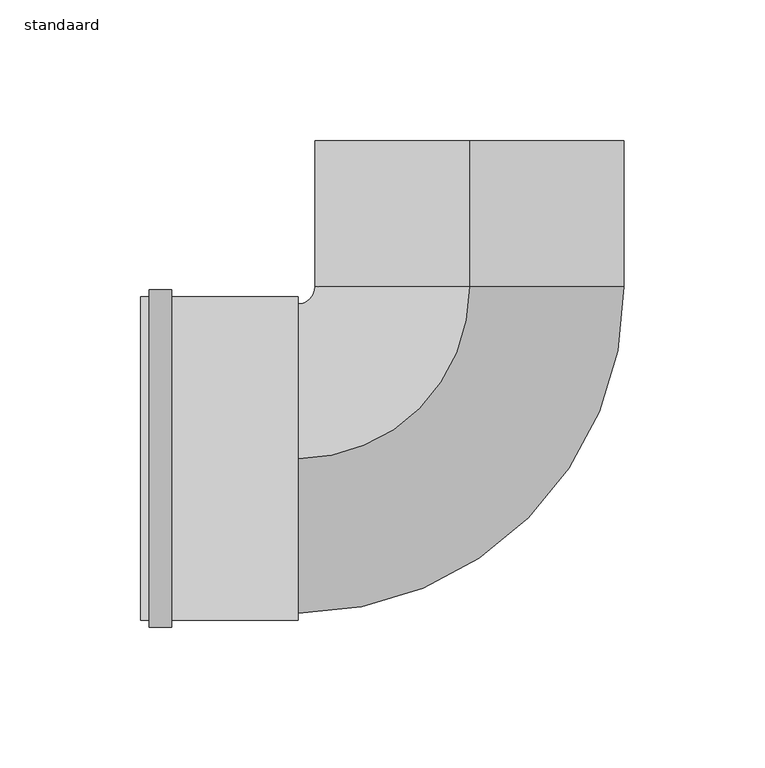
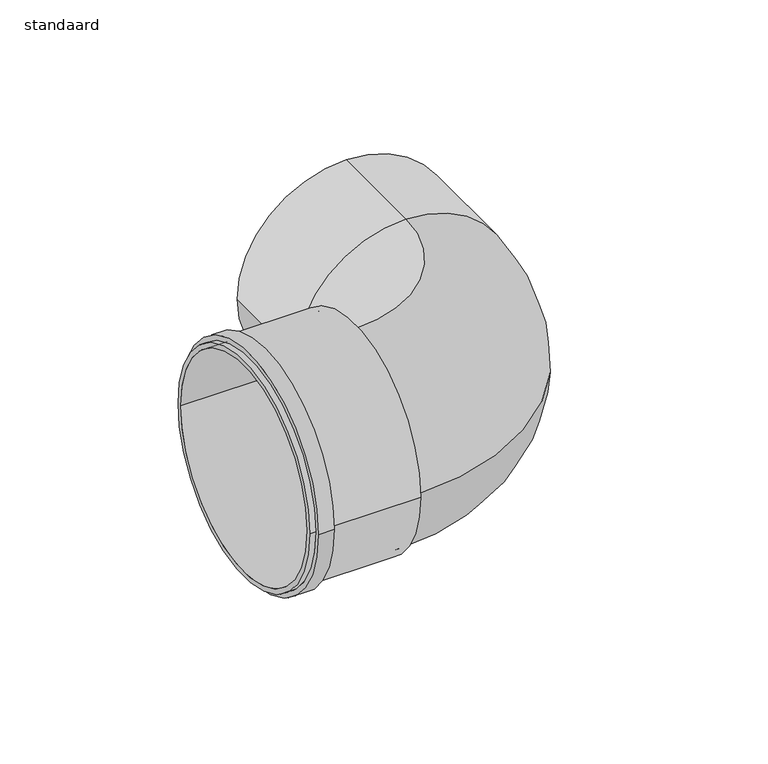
"""IFC4 building model written with IfcOpenShell, lengths in millimetres: pipe fitting geometry, 400_52_Dyka_PP_DykaStil_bocht_MS : standaard."""

from ifc_helpers import new_model, si_unit, point, frame, origin, place, context, project, spatial, polyline, circle_curve, ellipse_curve, trimmed, source, transform, mapped, element, save
from ifc_brep_helpers import plane_surface, cylinder_surface, revolved_surface, advanced_brep


def standaard_6f5948ce(model_context):
    return source(origin(), model_context, "Body", "AdvancedBrep", [
        advanced_brep(
        [(-55.0, 61.0, 0.0), (-61.0, 55.0, 0.0), (-61.0, 0.0, 55.0), (0.0, 61.0, 55.0), (0.0, 61.0, -55.0), (-61.0, 0.0, -55.0), (55.0, 61.0, 0.0), (-61.0, -55.0, 0.0), (-62.0, 0.0, 55.0), (-62.0, 55.0, 0.0), (-62.0, 0.0, -55.0), (-62.0, -55.0, 0.0), (0.0, 113.0, 55.0), (55.0, 113.0, 0.0), (0.0, 113.0, -55.0), (-55.0, 113.0, 0.0)],
        [
            (0, 1, circle_curve(frame((-61.0, 61.0, 0.0), z_axis=(0.0, 0.0, -1.0), x_axis=(0.0, -1.0, 0.0)), 6.0)),
            (1, 2, circle_curve(frame((-61.0, 0.0, 0.0), z_axis=(1.0, 0.0, 0.0), x_axis=(0.0, 1.0, 0.0)), 55.0)),
            (2, 3, circle_curve(frame((-61.0, 61.0, 55.0), z_axis=(0.0, 0.0, 1.0), x_axis=(0.0, -1.0, 0.0)), 61.0)),
            (3, 0, circle_curve(frame((0.0, 61.0, 0.0), z_axis=(0.0, -1.0, 0.0), x_axis=(-1.0, 0.0, 0.0)), 55.0)),
            (0, 4, circle_curve(frame((0.0, 61.0, 0.0), z_axis=(0.0, -1.0, 0.0), x_axis=(-1.0, 0.0, 0.0)), 55.0)),
            (4, 5, circle_curve(frame((-61.0, 61.0, -55.0), z_axis=(0.0, 0.0, -1.0), x_axis=(0.0, -1.0, 0.0)), 61.0)),
            (5, 1, circle_curve(frame((-61.0, 0.0, 0.0), z_axis=(1.0, 0.0, 0.0), x_axis=(0.0, 1.0, 0.0)), 55.0)),
            (4, 6, circle_curve(frame((0.0, 61.0, 0.0), z_axis=(0.0, -1.0, 0.0), x_axis=(-1.0, 0.0, 0.0)), 55.0)),
            (6, 7, circle_curve(frame((-61.0, 61.0, 0.0), z_axis=(0.0, 0.0, -1.0), x_axis=(0.0, -1.0, 0.0)), 116.0)),
            (7, 5, circle_curve(frame((-61.0, 0.0, 0.0), z_axis=(1.0, 0.0, 0.0), x_axis=(0.0, 1.0, 0.0)), 55.0)),
            (2, 7, circle_curve(frame((-61.0, 0.0, 0.0), z_axis=(1.0, 0.0, 0.0), x_axis=(0.0, 1.0, 0.0)), 55.0)),
            (6, 3, circle_curve(frame((0.0, 61.0, 0.0), z_axis=(0.0, -1.0, 0.0), x_axis=(-1.0, 0.0, 0.0)), 55.0)),
            (8, 9, circle_curve(frame((-62.0, 0.0, 0.0), z_axis=(-1.0, 0.0, 0.0), x_axis=(0.0, -1.0, 0.0)), 55.0)),
            (9, 10, circle_curve(frame((-62.0, 0.0, 0.0), z_axis=(-1.0, 0.0, 0.0), x_axis=(0.0, -1.0, 0.0)), 55.0)),
            (10, 11, circle_curve(frame((-62.0, 0.0, 0.0), z_axis=(-1.0, 0.0, 0.0), x_axis=(0.0, -1.0, 0.0)), 55.0)),
            (11, 8, circle_curve(frame((-62.0, 0.0, 0.0), z_axis=(-1.0, 0.0, 0.0), x_axis=(0.0, -1.0, 0.0)), 55.0)),
            (11, 7),
            (2, 8),
            (10, 5),
            (9, 1),
            (12, 13, circle_curve(frame((0.0, 113.0, 0.0), z_axis=(0.0, 1.0, 0.0), x_axis=(-1.0, 0.0, 0.0)), 55.0)),
            (13, 14, circle_curve(frame((0.0, 113.0, 0.0), z_axis=(0.0, 1.0, 0.0), x_axis=(-1.0, 0.0, 0.0)), 55.0)),
            (14, 15, circle_curve(frame((0.0, 113.0, 0.0), z_axis=(0.0, 1.0, 0.0), x_axis=(-1.0, 0.0, 0.0)), 55.0)),
            (15, 12, circle_curve(frame((0.0, 113.0, 0.0), z_axis=(0.0, 1.0, 0.0), x_axis=(-1.0, 0.0, 0.0)), 55.0)),
            (15, 0),
            (3, 12),
            (14, 4),
            (13, 6),
        ],
        [
            revolved_surface(trimmed(ellipse_curve(frame((-61.0, 0.0, 0.0), z_axis=(-1.0, 0.0, 0.0), x_axis=(0.0, 1.0, 0.0)), 55.0, 55.0), [point((-61.0, 0.0, 55.0))], [point((-61.0, 55.0, 0.0))], True, "CARTESIAN"), (-61.0, 61.0, 0.0), (0.0, 0.0, 1.0)),
            revolved_surface(trimmed(ellipse_curve(frame((-61.0, 0.0, 0.0), z_axis=(-1.0, 0.0, 0.0), x_axis=(0.0, 1.0, 0.0)), 55.0, 55.0), [point((-61.0, 55.0, 0.0))], [point((-61.0, 0.0, -55.0))], True, "CARTESIAN"), (-61.0, 61.0, 0.0), (0.0, 0.0, 1.0)),
            revolved_surface(trimmed(ellipse_curve(frame((-61.0, 0.0, 0.0), z_axis=(-1.0, 0.0, 0.0), x_axis=(0.0, 1.0, 0.0)), 55.0, 55.0), [point((-61.0, 0.0, -55.0))], [point((-61.0, -55.0, 0.0))], True, "CARTESIAN"), (-61.0, 61.0, 0.0), (0.0, 0.0, 1.0)),
            revolved_surface(trimmed(ellipse_curve(frame((-61.0, 0.0, 0.0), z_axis=(-1.0, 0.0, 0.0), x_axis=(0.0, 1.0, 0.0)), 55.0, 55.0), [point((-61.0, -55.0, 0.0))], [point((-61.0, 0.0, 55.0))], True, "CARTESIAN"), (-61.0, 61.0, 0.0), (0.0, 0.0, 1.0)),
            plane_surface(frame((-62.0, 0.0, 0.0), z_axis=(-1.0, 0.0, 0.0), x_axis=(0.0, 0.0, 1.0))),
            cylinder_surface(frame((-61.0, 0.0, 0.0), z_axis=(1.0, 0.0, 0.0), x_axis=(0.0, -1.0, 0.0)), 55.0),
            plane_surface(frame((0.0, 113.0, 0.0), z_axis=(0.0, 1.0, 0.0), x_axis=(0.0, 0.0, 1.0))),
            cylinder_surface(frame((0.0, 61.0, 0.0), z_axis=(0.0, -1.0, 0.0), x_axis=(-1.0, 0.0, 0.0)), 55.0),
        ],
        [
            (0, [[1, 2, 3, 4]]),
            (1, [[-1, 5, 6, 7]]),
            (2, [[-6, 8, 9, 10]]),
            (3, [[-3, 11, -9, 12]]),
            (4, [[13, 14, 15, 16]]),
            (5, [[-16, 17, -11, 18]]),
            (5, [[-15, 19, -10, -17]]),
            (5, [[-14, 20, -7, -19]]),
            (5, [[-13, -18, -2, -20]]),
            (6, [[21, 22, 23, 24]]),
            (7, [[-24, 25, -4, 26]]),
            (7, [[-23, 27, -5, -25]]),
            (7, [[-22, 28, -8, -27]]),
            (7, [[-21, -26, -12, -28]]),
        ],
    ),
        advanced_brep(
        [(-61.0, 57.5, 0.0), (-61.0, -57.5, 0.0), (-61.0, 55.0, 0.0), (-61.0, -55.0, 0.0), (-117.0, 57.5, 0.0), (-117.0, -57.5, 0.0), (-117.0, 55.0, 0.0), (-117.0, -55.0, 0.0), (-106.0, 57.5, 0.0), (-106.0, -57.5, 0.0), (-114.0, -57.5, 0.0), (-114.0, 57.5, 0.0), (-114.0, -60.0, 0.0), (-114.0, 60.0, 0.0), (-106.0, -60.0, 0.0), (-106.0, 60.0, 0.0)],
        [
            (0, 1, circle_curve(frame((-61.0, 0.0, 0.0), z_axis=(1.0, 0.0, 0.0), x_axis=(0.0, -1.0, 0.0)), 57.5)),
            (1, 0, circle_curve(frame((-61.0, 0.0, 0.0), z_axis=(1.0, 0.0, 0.0), x_axis=(0.0, -1.0, 0.0)), 57.5)),
            (2, 3, circle_curve(frame((-61.0, 0.0, 0.0), z_axis=(-1.0, 0.0, 0.0), x_axis=(0.0, -1.0, 0.0)), 55.0)),
            (3, 2, circle_curve(frame((-61.0, 0.0, 0.0), z_axis=(-1.0, 0.0, 0.0), x_axis=(0.0, -1.0, 0.0)), 55.0)),
            (4, 5, circle_curve(frame((-117.0, 0.0, 0.0), z_axis=(-1.0, 0.0, 0.0), x_axis=(0.0, -1.0, 0.0)), 57.5)),
            (5, 4, circle_curve(frame((-117.0, 0.0, 0.0), z_axis=(-1.0, 0.0, 0.0), x_axis=(0.0, -1.0, 0.0)), 57.5)),
            (6, 7, circle_curve(frame((-117.0, 0.0, 0.0), z_axis=(1.0, 0.0, 0.0), x_axis=(0.0, -1.0, 0.0)), 55.0)),
            (7, 6, circle_curve(frame((-117.0, 0.0, 0.0), z_axis=(1.0, 0.0, 0.0), x_axis=(0.0, -1.0, 0.0)), 55.0)),
            (2, 6),
            (7, 3),
            (0, 8),
            (8, 9, circle_curve(frame((-106.0, 0.0, 0.0), z_axis=(1.0, 0.0, 0.0), x_axis=(0.0, -1.0, 0.0)), 57.5)),
            (9, 1),
            (5, 10),
            (10, 11, circle_curve(frame((-114.0, 0.0, 0.0), z_axis=(-1.0, 0.0, 0.0), x_axis=(0.0, -1.0, 0.0)), 57.5)),
            (11, 4),
            (9, 8, circle_curve(frame((-106.0, 0.0, 0.0), z_axis=(1.0, 0.0, 0.0), x_axis=(0.0, -1.0, 0.0)), 57.5)),
            (11, 10, circle_curve(frame((-114.0, 0.0, 0.0), z_axis=(-1.0, 0.0, 0.0), x_axis=(0.0, -1.0, 0.0)), 57.5)),
            (12, 13, circle_curve(frame((-114.0, 0.0, 0.0), z_axis=(-1.0, 0.0, 0.0), x_axis=(0.0, 1.0, 0.0)), 60.0)),
            (13, 12, circle_curve(frame((-114.0, 0.0, 0.0), z_axis=(-1.0, 0.0, 0.0), x_axis=(0.0, 1.0, 0.0)), 60.0)),
            (14, 15, circle_curve(frame((-106.0, 0.0, 0.0), z_axis=(1.0, 0.0, 0.0), x_axis=(0.0, 1.0, 0.0)), 60.0)),
            (15, 14, circle_curve(frame((-106.0, 0.0, 0.0), z_axis=(1.0, 0.0, 0.0), x_axis=(0.0, 1.0, 0.0)), 60.0)),
            (12, 14),
            (15, 13),
        ],
        [
            plane_surface(frame((-61.0, 0.0, 0.0), z_axis=(1.0, 0.0, 0.0), x_axis=(0.0, 0.0, 1.0))),
            plane_surface(frame((-117.0, 0.0, 0.0), z_axis=(-1.0, 0.0, 0.0), x_axis=(0.0, 0.0, 1.0))),
            revolved_surface(polyline([(-117.0, -55.0, 0.0), (-61.0, -55.0, 0.0)]), (-61.0, 0.0, 0.0), (-1.0, 0.0, 0.0)),
            cylinder_surface(frame((-61.0, 0.0, 0.0), z_axis=(1.0, 0.0, 0.0), x_axis=(0.0, -1.0, 0.0)), 57.5),
            plane_surface(frame((-114.0, 0.0, 0.0), z_axis=(-1.0, 0.0, 0.0), x_axis=(0.0, 0.0, 1.0))),
            plane_surface(frame((-106.0, 0.0, 0.0), z_axis=(1.0, 0.0, 0.0), x_axis=(0.0, 0.0, 1.0))),
            cylinder_surface(frame((-114.0, 0.0, 0.0), z_axis=(-1.0, 0.0, 0.0), x_axis=(0.0, 1.0, 0.0)), 60.0),
        ],
        [
            (0, [[1, 2], [3, 4]]),
            (1, [[5, 6], [7, 8]]),
            (2, [[-3, 9, -8, 10]]),
            (2, [[-4, -10, -7, -9]]),
            (3, [[-1, 11, 12, 13]]),
            (3, [[-6, 14, 15, 16]]),
            (3, [[-2, -13, 17, -11]]),
            (3, [[-5, -16, 18, -14]]),
            (4, [[19, 20], [-15, -18]]),
            (5, [[21, 22], [-12, -17]]),
            (6, [[-19, 23, -22, 24]]),
            (6, [[-20, -24, -21, -23]]),
        ],
    ),
    ])


if __name__ == "__main__":
    model = new_model("IFC4")
    model_context = context("Model", 3, world=origin())
    ifc_project = project(units=[si_unit("LENGTHUNIT", "METRE", prefix="MILLI")], contexts=[model_context])
    site = spatial("IfcSite", under=ifc_project)
    building = spatial("IfcBuilding", under=site)
    placement = place(None, origin())
    standaard_shape = standaard_6f5948ce(model_context)
    element("IfcPipeFitting", 1, ObjectType="400_52_Dyka_PP_DykaStil_bocht_MS : standaard", at=placement, inside=building, context=model_context, shape_type="MappedRepresentation", body=[
        mapped(standaard_shape, transform((0.0, 0.0, 0.0), x_axis=(1.0, 0.0, 0.0), y_axis=(0.0, 1.0, 0.0), z_axis=(0.0, 0.0, 1.0))),
    ])
    save(model, "model.ifc")
